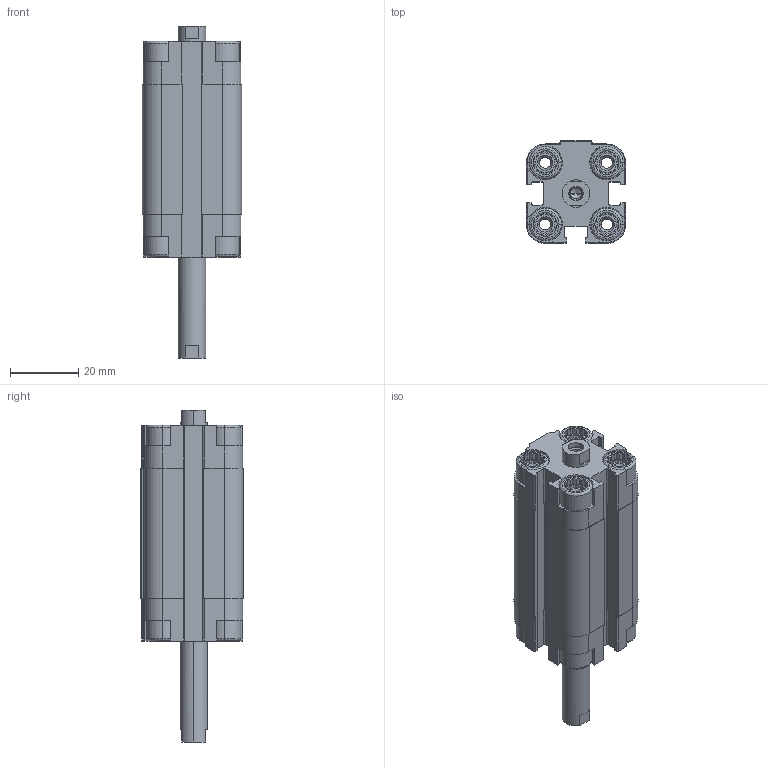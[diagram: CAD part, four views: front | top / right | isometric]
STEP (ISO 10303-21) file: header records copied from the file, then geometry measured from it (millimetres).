
FILE_DESCRIPTION (( 'STEP AP203' ), '1' );
FILE_NAME ('CDVU16-25F-P.STEP', '2020-07-24T18:04:20', ( '' ), ( '' ), 'SwSTEP 2.0', 'SolidWorks 2019', '' );
FILE_SCHEMA (( 'CONFIG_CONTROL_DESIGN' ));
Length unit declared in the file: millimetre
Products named in the file (1): CDVU16-25F-P
Bounding box: 29 x 30 x 97 mm (x, y, z)
Volume: 37478 mm3; surface area: 21905.4 mm2
Topology: 2 solids, 2 shells, 566 faces, 1508 edges, 980 vertices
Faces by surface type: plane 338, cylinder 164, cone 48, torus 16
Entity records: 17779 total; most frequent: CARTESIAN_POINT 3623, ORIENTED_EDGE 3000, DIRECTION 2850, EDGE_CURVE 1500, VERTEX_POINT 980, AXIS2_PLACEMENT_3D 975, LINE 900, VECTOR 900
